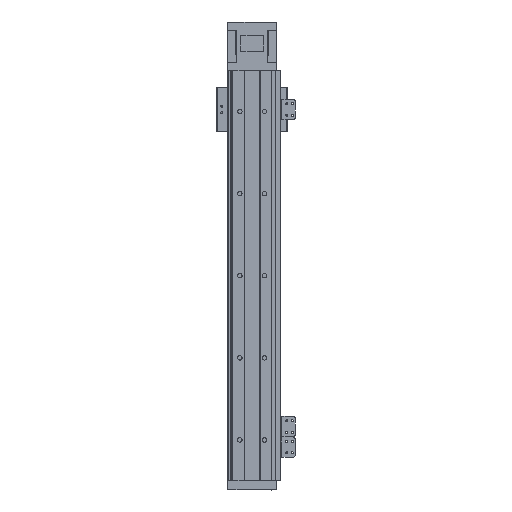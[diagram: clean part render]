
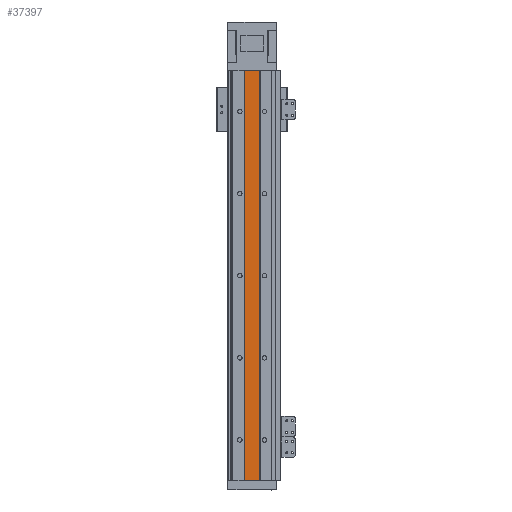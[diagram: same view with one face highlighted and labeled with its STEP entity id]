
A CAD part, front view. The second image highlights one B-rep face of the part: STEP entity #37397.
In plain terms, the highlighted planar face has unit normal (0, -1, 0).
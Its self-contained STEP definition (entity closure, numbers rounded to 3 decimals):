
#5400 = FACE_OUTER_BOUND ( 'NONE', #20613, .T. ) ;
#7450 = CARTESIAN_POINT ( 'NONE',  ( -20.745, 19.907, 500. ) ) ;
#7891 = DIRECTION ( 'NONE',  ( -1., 0., 0. ) ) ;
#9879 = CARTESIAN_POINT ( 'NONE',  ( -20.745, 19.907, 500. ) ) ;
#10428 = ORIENTED_EDGE ( 'NONE', *, *, #26728, .F. ) ;
#11135 = DIRECTION ( 'NONE',  ( 0., 1., 0. ) ) ;
#12311 = VERTEX_POINT ( 'NONE', #30254 ) ;
#12327 = LINE ( 'NONE', #38776, #40446 ) ;
#12813 = LINE ( 'NONE', #44443, #29420 ) ;
#17208 = LINE ( 'NONE', #9879, #30419 ) ;
#17340 = AXIS2_PLACEMENT_3D ( 'NONE', #7450, #11135, #43994 ) ;
#17372 = CARTESIAN_POINT ( 'NONE',  ( -20.745, 19.907, 0. ) ) ;
#20613 = EDGE_LOOP ( 'NONE', ( #27819, #10428, #30558, #38499 ) ) ;
#20638 = EDGE_CURVE ( 'NONE', #12311, #34922, #12327, .T. ) ;
#22030 = CARTESIAN_POINT ( 'NONE',  ( -2.845, 19.907, 0. ) ) ;
#22499 = LINE ( 'NONE', #30063, #39143 ) ;
#22697 = PLANE ( 'NONE',  #17340 ) ;
#22852 = DIRECTION ( 'NONE',  ( 0., 0., 1. ) ) ;
#26728 = EDGE_CURVE ( 'NONE', #41939, #12311, #17208, .T. ) ;
#27819 = ORIENTED_EDGE ( 'NONE', *, *, #20638, .F. ) ;
#28444 = VERTEX_POINT ( 'NONE', #17372 ) ;
#29420 = VECTOR ( 'NONE', #7891, 1000. ) ;
#30063 = CARTESIAN_POINT ( 'NONE',  ( -20.745, 19.907, 500. ) ) ;
#30254 = CARTESIAN_POINT ( 'NONE',  ( -2.845, 19.907, 500. ) ) ;
#30419 = VECTOR ( 'NONE', #42928, 1000. ) ;
#30454 = CARTESIAN_POINT ( 'NONE',  ( -20.745, 19.907, 500. ) ) ;
#30558 = ORIENTED_EDGE ( 'NONE', *, *, #39134, .F. ) ;
#34922 = VERTEX_POINT ( 'NONE', #22030 ) ;
#37397 = ADVANCED_FACE ( 'NONE', ( #5400 ), #22697, .F. ) ;
#38234 = EDGE_CURVE ( 'NONE', #34922, #28444, #12813, .T. ) ;
#38499 = ORIENTED_EDGE ( 'NONE', *, *, #38234, .F. ) ;
#38776 = CARTESIAN_POINT ( 'NONE',  ( -2.845, 19.907, 500. ) ) ;
#39134 = EDGE_CURVE ( 'NONE', #28444, #41939, #22499, .T. ) ;
#39143 = VECTOR ( 'NONE', #22852, 1000. ) ;
#40446 = VECTOR ( 'NONE', #42750, 1000. ) ;
#41939 = VERTEX_POINT ( 'NONE', #30454 ) ;
#42750 = DIRECTION ( 'NONE',  ( 0., 0., -1. ) ) ;
#42928 = DIRECTION ( 'NONE',  ( 1., 0., 0. ) ) ;
#43994 = DIRECTION ( 'NONE',  ( 0., 0., 1. ) ) ;
#44443 = CARTESIAN_POINT ( 'NONE',  ( -20.745, 19.907, 0. ) ) ;
